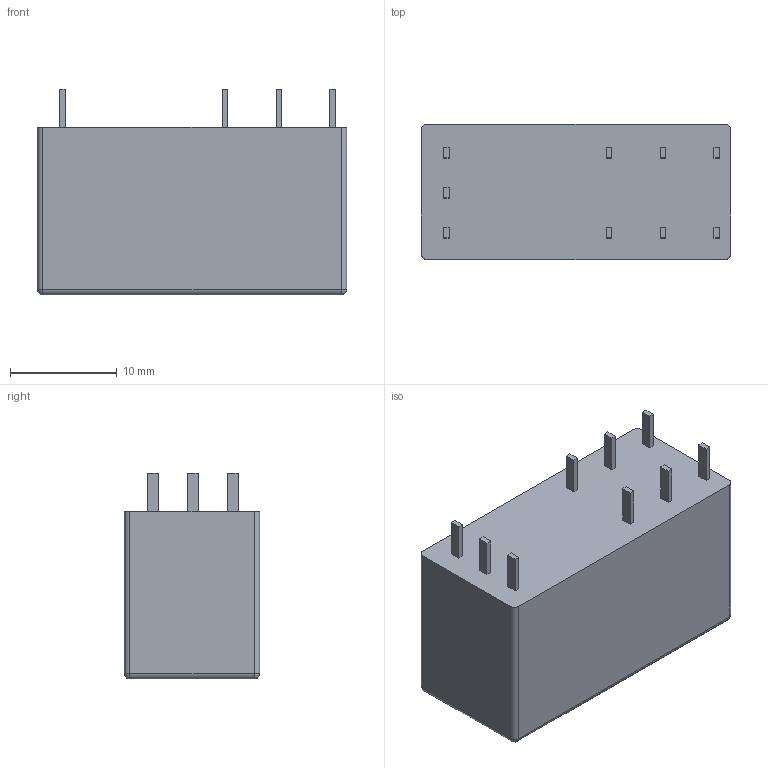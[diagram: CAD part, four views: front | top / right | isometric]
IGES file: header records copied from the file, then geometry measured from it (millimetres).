
Start section:  PTC IGES file: c-8-1393239-7-d-3d.igs
Global section: file name: c-8-1393239-7-d-3d.igs; native system: Creo Parametric by PTC Inc.; preprocessor: 2021072; author: workeradm; organization: Unknown; units: millimetre
Bounding box: 29 x 12.7 x 19.3 mm (x, y, z)
Surface area: 2111.4 mm2 (no closed solid volume)
Topology: 0 solids, 0 shells, 63 faces, 288 edges, 288 vertices
Faces by surface type: bspline 51, revolution 12
